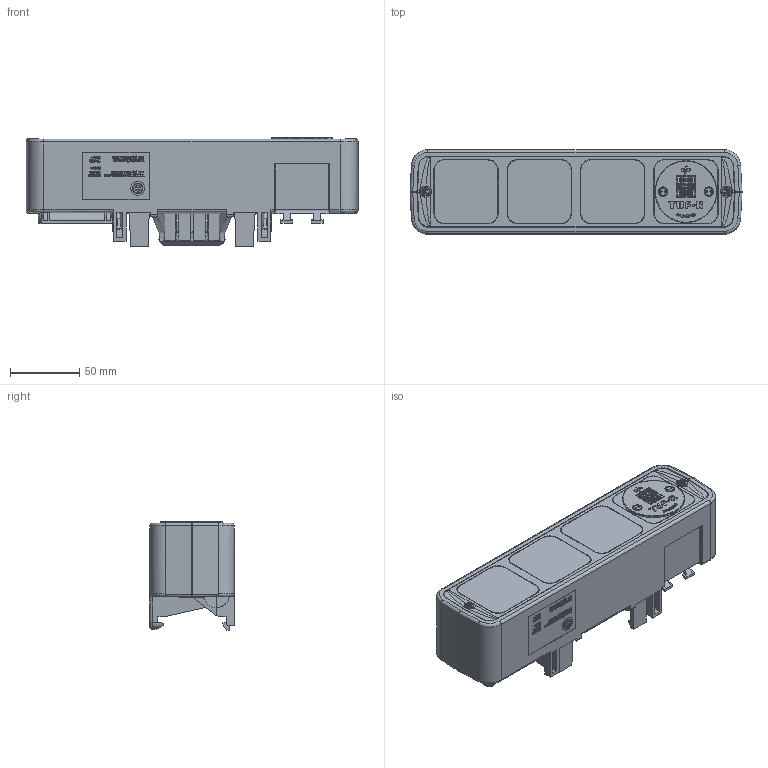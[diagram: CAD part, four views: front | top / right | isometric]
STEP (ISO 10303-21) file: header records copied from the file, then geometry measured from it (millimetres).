
FILE_DESCRIPTION (( 'STEP AP203' ), '1' );
FILE_NAME ('Pulse_4.STEP', '2023-03-10T14:38:04', ( '' ), ( '' ), 'SwSTEP 2.0', 'SolidWorks 2021', '' );
FILE_SCHEMA (( 'CONFIG_CONTROL_DESIGN' ));
Products named in the file (1): Pulse_4
Bounding box: 240 x 61 x 78.47 mm (x, y, z)
Volume: 775656 mm3; surface area: 92816 mm2
Topology: 1 solids, 16 shells, 3788 faces, 10738 edges, 6997 vertices
Faces by surface type: plane 2559, cylinder 642, bspline 540, cone 47
Entity records: 149370 total; most frequent: CARTESIAN_POINT 56958, ORIENTED_EDGE 21470, DIRECTION 15374, EDGE_CURVE 10735, VECTOR 7988, LINE 7988, VERTEX_POINT 6996, EDGE_LOOP 4067
